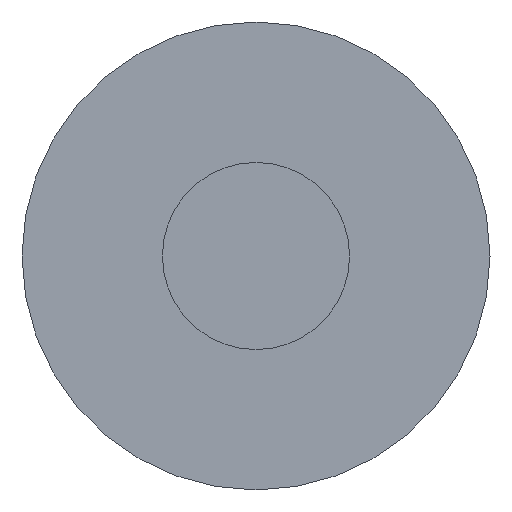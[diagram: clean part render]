
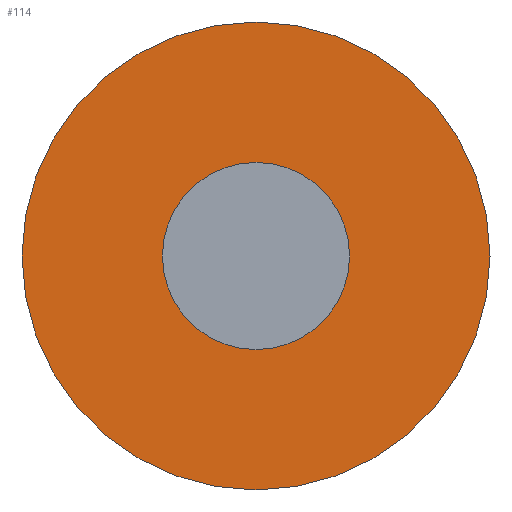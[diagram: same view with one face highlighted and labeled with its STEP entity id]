
A CAD part, left-side view. The second image highlights one B-rep face of the part: STEP entity #114.
In plain terms, the highlighted planar face has unit normal (-1, 0, 0).
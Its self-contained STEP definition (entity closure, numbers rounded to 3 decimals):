
#17=FACE_BOUND('',#41,.T.);
#21=CIRCLE('',#124,10.);
#24=CIRCLE('',#128,4.);
#30=FACE_OUTER_BOUND('',#40,.T.);
#40=EDGE_LOOP('',(#97));
#41=EDGE_LOOP('',(#98));
#64=VERTEX_POINT('',#186);
#66=VERTEX_POINT('',#192);
#75=EDGE_CURVE('',#64,#64,#21,.T.);
#78=EDGE_CURVE('',#66,#66,#24,.T.);
#97=ORIENTED_EDGE('',*,*,#75,.F.);
#98=ORIENTED_EDGE('',*,*,#78,.T.);
#106=PLANE('',#129);
#114=ADVANCED_FACE('',(#30,#17),#106,.T.);
#124=AXIS2_PLACEMENT_3D('',#187,#151,#152);
#128=AXIS2_PLACEMENT_3D('',#193,#159,#160);
#129=AXIS2_PLACEMENT_3D('',#194,#161,#162);
#151=DIRECTION('center_axis',(1.,0.,0.));
#152=DIRECTION('ref_axis',(0.,1.,0.));
#159=DIRECTION('center_axis',(1.,0.,0.));
#160=DIRECTION('ref_axis',(0.,1.,0.));
#161=DIRECTION('center_axis',(-1.,0.,0.));
#162=DIRECTION('ref_axis',(0.,0.,1.));
#186=CARTESIAN_POINT('',(-1050.059,10.,0.));
#187=CARTESIAN_POINT('Origin',(-1050.059,0.,0.));
#192=CARTESIAN_POINT('',(-1050.059,4.,0.));
#193=CARTESIAN_POINT('Origin',(-1050.059,0.,0.));
#194=CARTESIAN_POINT('Origin',(-1050.059,7.,0.));
